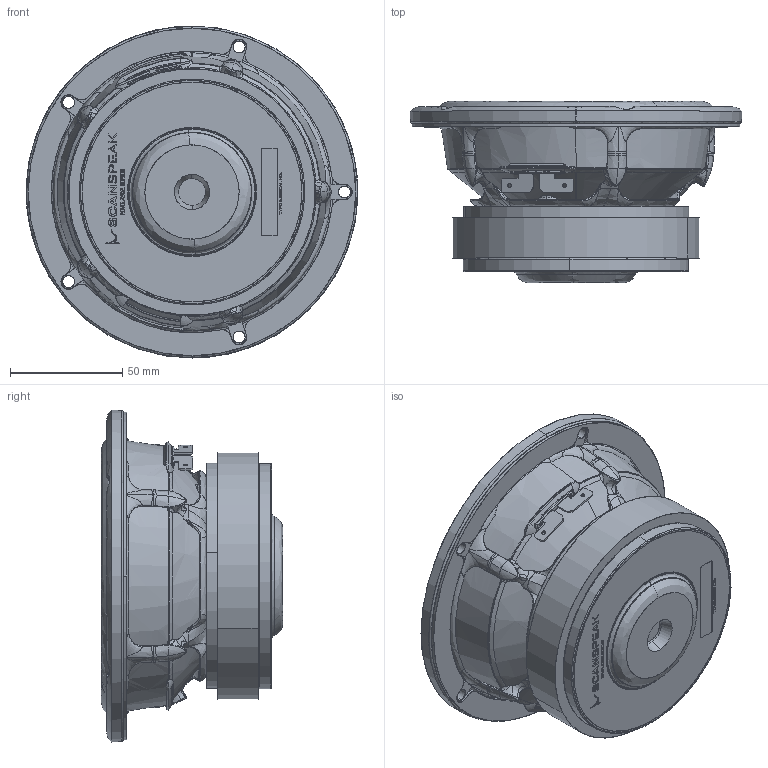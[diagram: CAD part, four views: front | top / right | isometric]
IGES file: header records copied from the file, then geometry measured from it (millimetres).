
Start section: SolidWorks IGES file using analytic representation for surfaces
Global section: file name: W:\TT\15W\15W-4531G00.IGS; native system: SolidWorks 2019; preprocessor: SolidWorks 2019; author: mhn; date: 201214.105204; units: millimetre
Bounding box: 148 x 80.9 x 148 mm (x, y, z)
Surface area: 93753.6 mm2 (no closed solid volume)
Topology: 0 solids, 0 shells, 1739 faces, 19978 edges, 19926 vertices
Faces by surface type: bspline 1442, revolution 297
